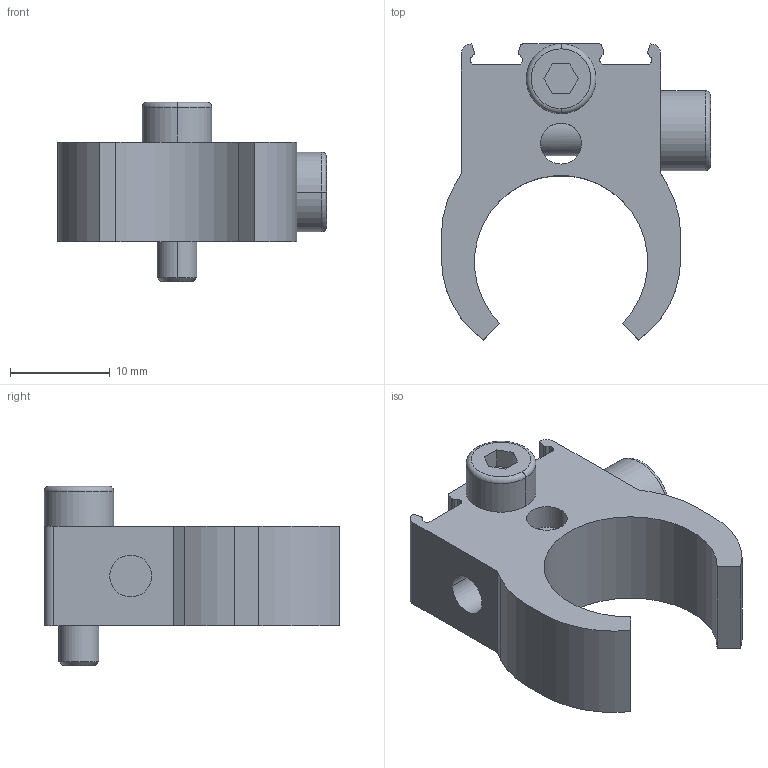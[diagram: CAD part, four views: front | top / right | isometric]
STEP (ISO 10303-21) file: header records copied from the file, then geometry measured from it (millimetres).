
FILE_DESCRIPTION((''),'2;1');
FILE_NAME('1827020067','2024-04-17T17:25:33',('GND7HC'),(''),'CREO PARAMETRIC BY PTC INC, 2023092','CREO PARAMETRIC BY PTC INC, 2023092','');
FILE_SCHEMA(('CONFIG_CONTROL_DESIGN','SHAPE_APPEARANCE_LAYERS_GROUPS'));
Length unit declared in the file: millimetre
Products named in the file (1): 1827020067
Bounding box: 27 x 29.7 x 18 mm (x, y, z)
Volume: 3959.5 mm3; surface area: 2830.5 mm2
Topology: 1 solids, 1 shells, 98 faces, 262 edges, 172 vertices
Faces by surface type: plane 48, cylinder 44, torus 4, cone 2
Entity records: 4420 total; most frequent: CARTESIAN_POINT 652, DIRECTION 546, ORIENTED_EDGE 524, PRESENTATION_STYLE_ASSIGNMENT 295, STYLED_ITEM 263, CURVE_STYLE 262, EDGE_CURVE 262, AXIS2_PLACEMENT_3D 191
